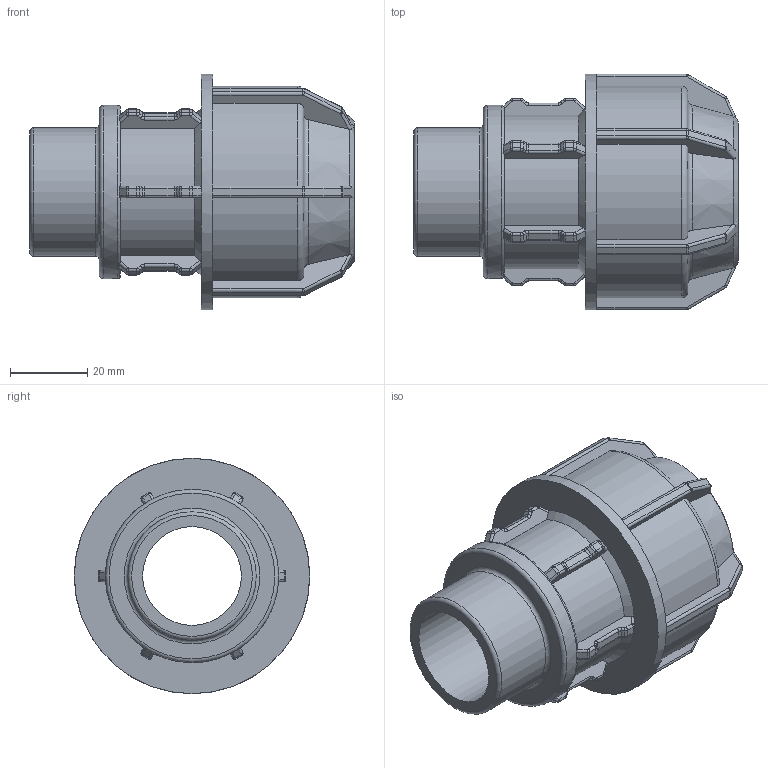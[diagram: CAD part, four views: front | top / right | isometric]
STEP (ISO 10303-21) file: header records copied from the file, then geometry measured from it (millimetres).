
FILE_DESCRIPTION(/* description */ ('PLASSON L.14 MALE ADAPTOR (SILVER) 32-1'''''),/* implementation_level */ '2;1');
FILE_NAME(/* name */ 'C:\Dropbox\KIMPROJECTS-Inventor\99-16-3568-Processing\Silver+MF ISRAEL\140200\140200032010.ipt.stp',/* time_stamp */ '2018-04-09T13:02:44+03:00',/* author */ ('KIM'),/* organization */ (''),/* preprocessor_version */ 'ST-DEVELOPER v15.6',/* originating_system */ 'Autodesk Inventor 2015',/* authorisation */ '');
FILE_SCHEMA (('AUTOMOTIVE_DESIGN { 1 0 10303 214 3 1 1 }'));
Length unit declared in the file: millimetre
Products named in the file (1): 140200032010
Bounding box: 84 x 61 x 61 mm (x, y, z)
Volume: 76327.5 mm3; surface area: 26639.4 mm2
Topology: 1 solids, 1 shells, 471 faces, 1163 edges, 690 vertices
Faces by surface type: cylinder 186, plane 158, bspline 72, torus 42, cone 13
Full cylindrical faces by diameter (mm): 25.6 x1, 32 x2, 33.249 x1, 44.886 x1, 61 x1
Entity records: 14494 total; most frequent: CARTESIAN_POINT 3778, DIRECTION 2310, ORIENTED_EDGE 2252, EDGE_CURVE 1126, AXIS2_PLACEMENT_3D 930, VERTEX_POINT 676, CIRCLE 508, EDGE_LOOP 488
